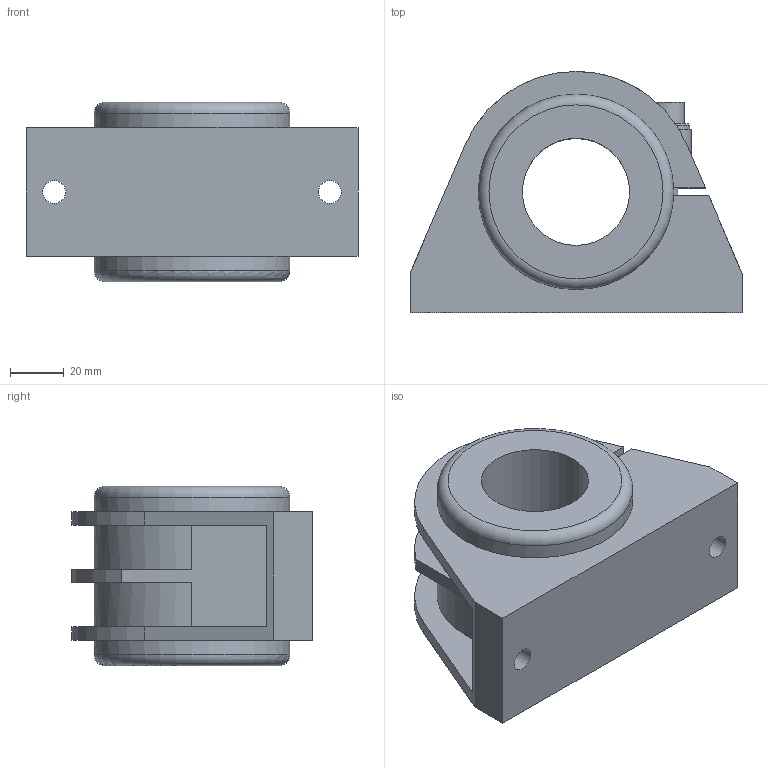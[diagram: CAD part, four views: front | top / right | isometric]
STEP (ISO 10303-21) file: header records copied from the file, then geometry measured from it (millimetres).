
FILE_DESCRIPTION(('STEP AP203'),'1');
FILE_NAME('//192.168.1.1/share/s-4 技術開発/s-4-4_CAD/s-4-4-3_見直し済み/008 修正済み/DLS/DLS_TOP/DLS-40.step','2022-02-18T05:47:04',(' '),(' '),'Spatial InterOp 3D',' ',' ');
FILE_SCHEMA(('CONFIG_CONTROL_DESIGN'));
Length unit declared in the file: millimetre
Products named in the file (1): 1
Bounding box: 124 x 90 x 67 mm (x, y, z)
Volume: 321367.2 mm3; surface area: 52803.5 mm2
Topology: 1 solids, 1 shells, 60 faces, 161 edges, 106 vertices
Faces by surface type: plane 41, cylinder 16, torus 2, cone 1
Full cylindrical faces by diameter (mm): 8 x1, 8.6 x2, 13 x1, 17 x1, 40 x1, 73 x2
Entity records: 1826 total; most frequent: CARTESIAN_POINT 317, DIRECTION 304, ORIENTED_EDGE 286, EDGE_CURVE 143, AXIS2_PLACEMENT_3D 102, LINE 100, VECTOR 100, VERTEX_POINT 99
